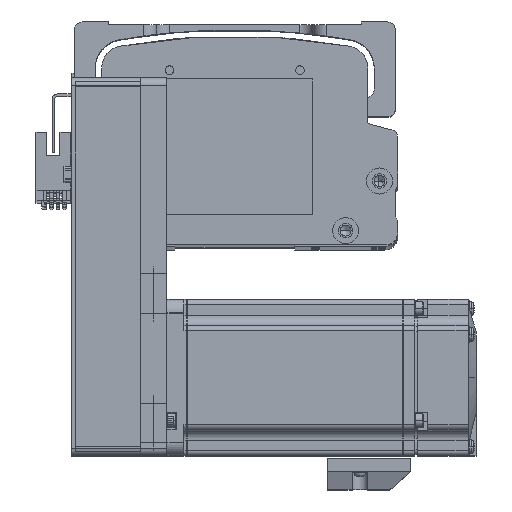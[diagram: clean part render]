
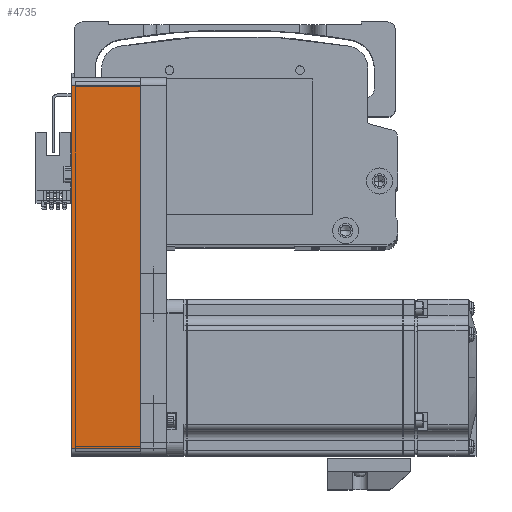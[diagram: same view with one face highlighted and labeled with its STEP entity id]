
A CAD part, top view. The second image highlights one B-rep face of the part: STEP entity #4735.
In plain terms, the highlighted planar face has unit normal (0, 0, 1) as drawn and (0, 1, 0) by its records, which use the part's own axes.
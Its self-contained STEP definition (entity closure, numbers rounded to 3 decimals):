
#2674 = CARTESIAN_POINT ( 'NONE',  ( 69.5, 30., 26.5 ) ) ;
#4735 = ADVANCED_FACE ( 'NONE', ( #32060 ), #78509, .F. ) ;
#4791 = CARTESIAN_POINT ( 'NONE',  ( 69.5, 30., 26.5 ) ) ;
#4839 = VERTEX_POINT ( 'NONE', #2674 ) ;
#6095 = EDGE_CURVE ( 'NONE', #4839, #10446, #57919, .T. ) ;
#10446 = VERTEX_POINT ( 'NONE', #28930 ) ;
#12448 = CARTESIAN_POINT ( 'NONE',  ( 72.5, 30., 26.5 ) ) ;
#19786 = EDGE_LOOP ( 'NONE', ( #81868, #64730, #28832, #39665 ) ) ;
#20138 = VECTOR ( 'NONE', #59112, 1000. ) ;
#22832 = CARTESIAN_POINT ( 'NONE',  ( -69.5, 30., 0. ) ) ;
#23437 = LINE ( 'NONE', #12448, #59652 ) ;
#23466 = DIRECTION ( 'NONE',  ( -1., 0., 0. ) ) ;
#27806 = VERTEX_POINT ( 'NONE', #60658 ) ;
#28832 = ORIENTED_EDGE ( 'NONE', *, *, #44661, .F. ) ;
#28930 = CARTESIAN_POINT ( 'NONE',  ( 69.5, 30., 0. ) ) ;
#32060 = FACE_OUTER_BOUND ( 'NONE', #19786, .T. ) ;
#33323 = CARTESIAN_POINT ( 'NONE',  ( -69.5, 30., 26.5 ) ) ;
#34186 = CARTESIAN_POINT ( 'NONE',  ( 72.5, 30., 26.5 ) ) ;
#39234 = LINE ( 'NONE', #33323, #20138 ) ;
#39665 = ORIENTED_EDGE ( 'NONE', *, *, #6095, .T. ) ;
#40598 = DIRECTION ( 'NONE',  ( 1., 0., 0. ) ) ;
#40845 = VECTOR ( 'NONE', #75326, 1000. ) ;
#44661 = EDGE_CURVE ( 'NONE', #4839, #27806, #23437, .T. ) ;
#49240 = EDGE_CURVE ( 'NONE', #10446, #58842, #54148, .T. ) ;
#54148 = LINE ( 'NONE', #55490, #69259 ) ;
#55490 = CARTESIAN_POINT ( 'NONE',  ( 72.5, 30., 0. ) ) ;
#57360 = DIRECTION ( 'NONE',  ( -1., 0., 0. ) ) ;
#57919 = LINE ( 'NONE', #4791, #40845 ) ;
#58842 = VERTEX_POINT ( 'NONE', #22832 ) ;
#59112 = DIRECTION ( 'NONE',  ( 0., 0., 1. ) ) ;
#59652 = VECTOR ( 'NONE', #57360, 1000. ) ;
#60658 = CARTESIAN_POINT ( 'NONE',  ( -69.5, 30., 26.5 ) ) ;
#64730 = ORIENTED_EDGE ( 'NONE', *, *, #77698, .T. ) ;
#69259 = VECTOR ( 'NONE', #23466, 1000. ) ;
#71247 = AXIS2_PLACEMENT_3D ( 'NONE', #34186, #79037, #40598 ) ;
#75326 = DIRECTION ( 'NONE',  ( 0., 0., -1. ) ) ;
#77698 = EDGE_CURVE ( 'NONE', #58842, #27806, #39234, .T. ) ;
#78509 = PLANE ( 'NONE',  #71247 ) ;
#79037 = DIRECTION ( 'NONE',  ( 0., -1., 0. ) ) ;
#81868 = ORIENTED_EDGE ( 'NONE', *, *, #49240, .T. ) ;
